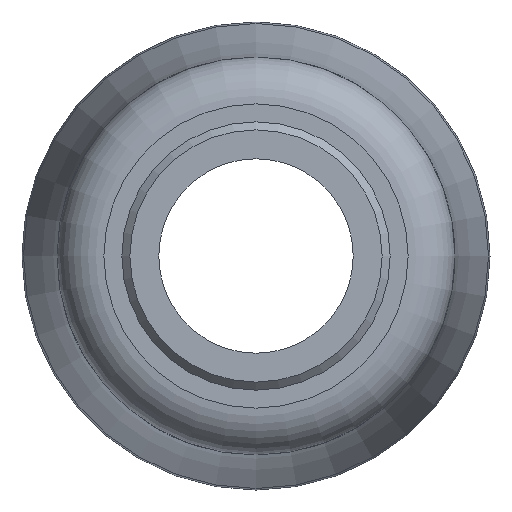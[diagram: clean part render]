
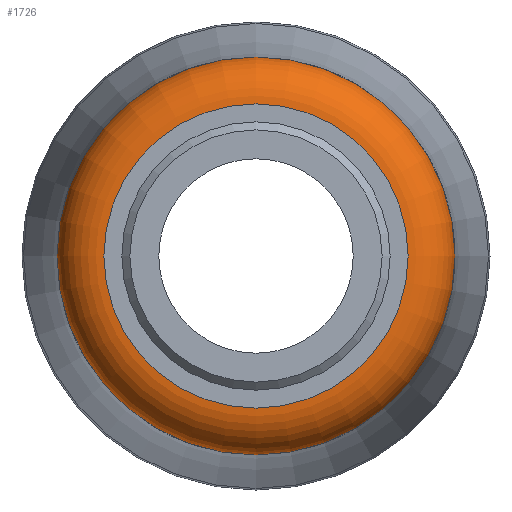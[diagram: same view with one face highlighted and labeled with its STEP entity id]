
A CAD part, left-side view. The second image highlights one B-rep face of the part: STEP entity #1726.
In plain terms, the highlighted toroidal (fillet/blend) face has major radius 18.85 mm and minor radius 5.8 mm.
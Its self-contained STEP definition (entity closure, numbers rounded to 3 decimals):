
#15=TOROIDAL_SURFACE('',#1908,18.85,5.8);
#210=FACE_OUTER_BOUND('',#311,.T.);
#311=EDGE_LOOP('',(#1249,#1250,#1251,#1252,#1253,#1254,#1255));
#626=CIRCLE('',#1909,24.65);
#627=CIRCLE('',#1910,24.65);
#628=CIRCLE('',#1911,5.8);
#629=CIRCLE('',#1912,18.85);
#630=CIRCLE('',#1913,18.85);
#631=CIRCLE('',#1914,24.65);
#750=VERTEX_POINT('',#3019);
#751=VERTEX_POINT('',#3020);
#752=VERTEX_POINT('',#3022);
#753=VERTEX_POINT('',#3024);
#754=VERTEX_POINT('',#3026);
#941=EDGE_CURVE('',#750,#751,#626,.T.);
#942=EDGE_CURVE('',#751,#752,#627,.T.);
#943=EDGE_CURVE('',#752,#753,#628,.T.);
#944=EDGE_CURVE('',#753,#754,#629,.T.);
#945=EDGE_CURVE('',#754,#753,#630,.T.);
#946=EDGE_CURVE('',#752,#750,#631,.T.);
#1249=ORIENTED_EDGE('',*,*,#941,.T.);
#1250=ORIENTED_EDGE('',*,*,#942,.T.);
#1251=ORIENTED_EDGE('',*,*,#943,.T.);
#1252=ORIENTED_EDGE('',*,*,#944,.T.);
#1253=ORIENTED_EDGE('',*,*,#945,.T.);
#1254=ORIENTED_EDGE('',*,*,#943,.F.);
#1255=ORIENTED_EDGE('',*,*,#946,.T.);
#1726=ADVANCED_FACE('',(#210),#15,.T.);
#1908=AXIS2_PLACEMENT_3D('',#3018,#2230,#2231);
#1909=AXIS2_PLACEMENT_3D('',#3021,#2232,#2233);
#1910=AXIS2_PLACEMENT_3D('',#3023,#2234,#2235);
#1911=AXIS2_PLACEMENT_3D('',#3025,#2236,#2237);
#1912=AXIS2_PLACEMENT_3D('',#3027,#2238,#2239);
#1913=AXIS2_PLACEMENT_3D('',#3028,#2240,#2241);
#1914=AXIS2_PLACEMENT_3D('',#3029,#2242,#2243);
#2230=DIRECTION('center_axis',(1.,0.,0.));
#2231=DIRECTION('ref_axis',(0.,0.,-1.));
#2232=DIRECTION('center_axis',(-1.,0.,0.));
#2233=DIRECTION('ref_axis',(0.,-1.,0.));
#2234=DIRECTION('center_axis',(-1.,0.,0.));
#2235=DIRECTION('ref_axis',(0.,-1.,0.));
#2236=DIRECTION('center_axis',(0.,-1.,0.));
#2237=DIRECTION('ref_axis',(0.,0.,1.));
#2238=DIRECTION('center_axis',(1.,0.,0.));
#2239=DIRECTION('ref_axis',(0.,-1.,0.));
#2240=DIRECTION('center_axis',(1.,0.,0.));
#2241=DIRECTION('ref_axis',(0.,-1.,0.));
#2242=DIRECTION('center_axis',(-1.,0.,0.));
#2243=DIRECTION('ref_axis',(0.,-1.,0.));
#3018=CARTESIAN_POINT('Origin',(22.8,0.,0.));
#3019=CARTESIAN_POINT('',(22.8,24.65,0.));
#3020=CARTESIAN_POINT('',(22.8,-24.65,0.));
#3021=CARTESIAN_POINT('Origin',(22.8,0.,0.));
#3022=CARTESIAN_POINT('',(22.8,0.,24.65));
#3023=CARTESIAN_POINT('Origin',(22.8,0.,0.));
#3024=CARTESIAN_POINT('',(17.,0.,18.85));
#3025=CARTESIAN_POINT('Origin',(22.8,0.,18.85));
#3026=CARTESIAN_POINT('',(17.,18.85,0.));
#3027=CARTESIAN_POINT('Origin',(17.,0.,0.));
#3028=CARTESIAN_POINT('Origin',(17.,0.,0.));
#3029=CARTESIAN_POINT('Origin',(22.8,0.,0.));
